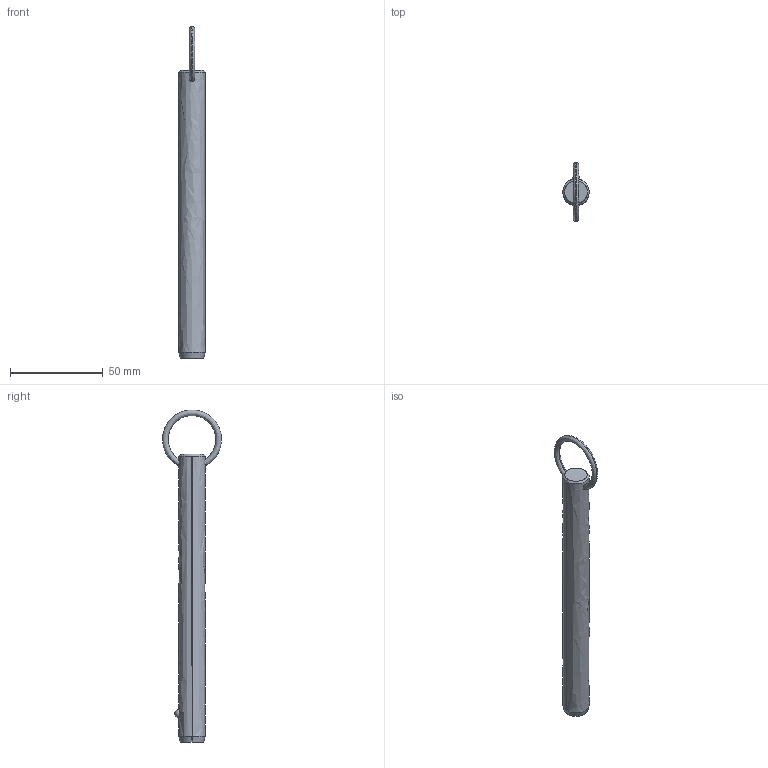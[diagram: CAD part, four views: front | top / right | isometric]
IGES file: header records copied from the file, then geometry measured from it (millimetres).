
Start section: SolidWorks IGES file using analytic representation for surfaces
Global section: file name: C:\Users\liam_\OneDrive\Documents\WORK\Work for WixRoyd\Job Files\J-00019 - Matt Davis CAD Checking\04. CAD Drawings\automotion20190605\P1250.2_v2\P1250.2_v2_20190729_IGES\P1250.056-510.igs; native system: SolidWorks 2017; preprocessor: SolidWorks 2017; author: liam_; date: 190729.232448; units: millimetre
Bounding box: 14.2 x 31.68 x 178.59 mm (x, y, z)
Surface area: 7871.6 mm2 (no closed solid volume)
Topology: 0 solids, 0 shells, 12 faces, 285 edges, 283 vertices
Faces by surface type: revolution 8, bspline 4
